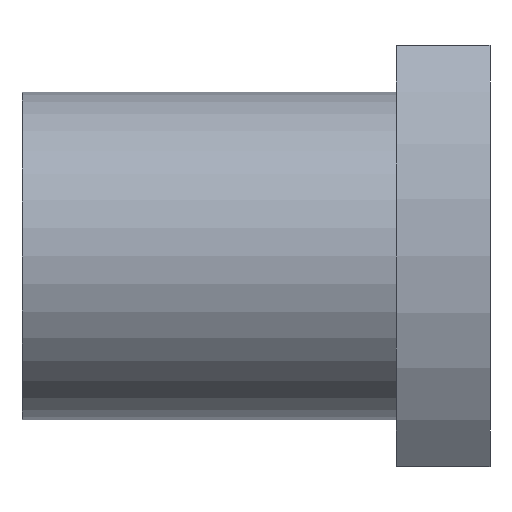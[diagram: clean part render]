
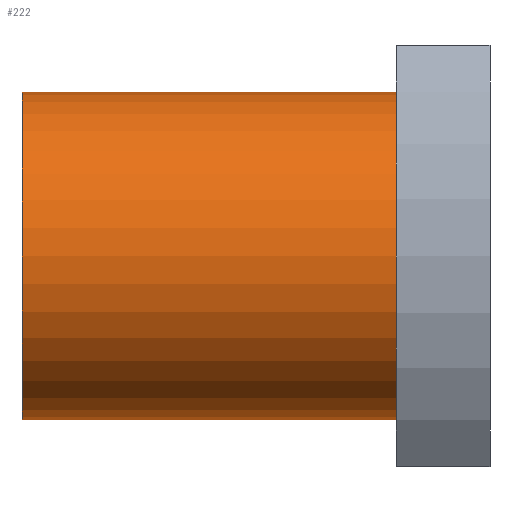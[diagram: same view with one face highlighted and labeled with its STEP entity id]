
A CAD part, front view. The second image highlights one B-rep face of the part: STEP entity #222.
In plain terms, the highlighted cylindrical face has radius 10.5 mm (diameter 21 mm), a full revolution.
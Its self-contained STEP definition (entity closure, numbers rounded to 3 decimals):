
#51=ORIENTED_EDGE('',*,*,#99,.T.);
#52=ORIENTED_EDGE('',*,*,#100,.T.);
#99=EDGE_CURVE('',#123,#123,#141,.T.);
#100=EDGE_CURVE('',#124,#124,#142,.F.);
#123=VERTEX_POINT('',#372);
#124=VERTEX_POINT('',#374);
#141=CIRCLE('',#257,10.5);
#142=CIRCLE('',#258,10.5);
#156=EDGE_LOOP('',(#51));
#157=EDGE_LOOP('',(#52));
#186=FACE_BOUND('',#156,.T.);
#187=FACE_BOUND('',#157,.T.);
#212=CYLINDRICAL_SURFACE('',#256,10.5);
#222=ADVANCED_FACE('',(#186,#187),#212,.T.);
#256=AXIS2_PLACEMENT_3D('',#370,#300,#301);
#257=AXIS2_PLACEMENT_3D('',#371,#302,#303);
#258=AXIS2_PLACEMENT_3D('',#373,#304,#305);
#300=DIRECTION('',(1.,0.,0.));
#301=DIRECTION('',(0.,0.,-1.));
#302=DIRECTION('',(1.,0.,0.));
#303=DIRECTION('',(0.,0.,-1.));
#304=DIRECTION('',(1.,0.,0.));
#305=DIRECTION('',(0.,0.,-1.));
#370=CARTESIAN_POINT('',(-15.,0.,0.));
#371=CARTESIAN_POINT('',(-15.,0.,0.));
#372=CARTESIAN_POINT('',(-15.,0.,-10.5));
#373=CARTESIAN_POINT('',(9.,0.,0.));
#374=CARTESIAN_POINT('',(9.,0.,-10.5));
